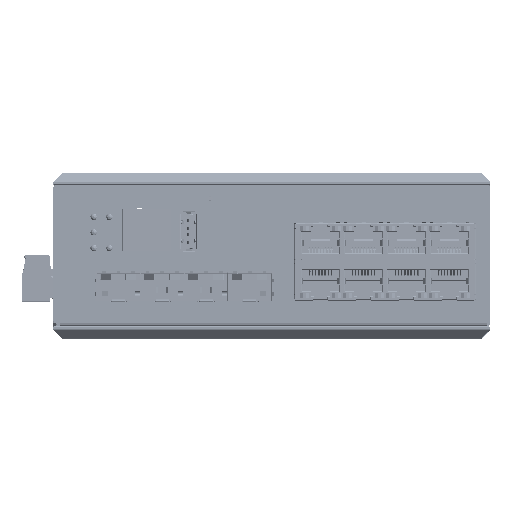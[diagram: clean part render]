
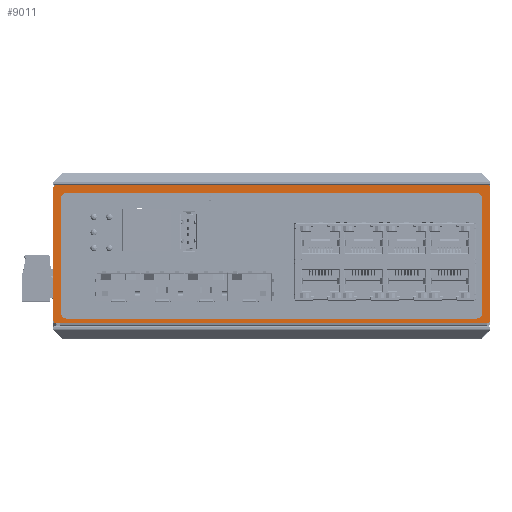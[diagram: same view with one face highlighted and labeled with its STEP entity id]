
A CAD part, top view. The second image highlights one B-rep face of the part: STEP entity #9011.
In plain terms, the highlighted planar face has unit normal (0, 0, 1).
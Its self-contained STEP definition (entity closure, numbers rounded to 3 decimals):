
#353=CARTESIAN_POINT('',(-70.5,1.1,49.));
#354=DIRECTION('',(0.,0.,-1.));
#355=DIRECTION('',(0.,-1.,0.));
#356=AXIS2_PLACEMENT_3D('',#353,#354,#355);
#358=DIRECTION('',(0.,1.,0.));
#359=VECTOR('',#358,42.9);
#360=CARTESIAN_POINT('',(-71.5,1.1,49.));
#361=LINE('',#360,#359);
#362=CARTESIAN_POINT('',(-70.5,44.,49.));
#363=DIRECTION('',(0.,0.,-1.));
#364=DIRECTION('',(-1.,0.,0.));
#365=AXIS2_PLACEMENT_3D('',#362,#363,#364);
#367=DIRECTION('',(1.,0.,0.));
#368=VECTOR('',#367,140.);
#369=CARTESIAN_POINT('',(-70.5,45.,49.));
#370=LINE('',#369,#368);
#371=CARTESIAN_POINT('',(69.5,44.,49.));
#372=DIRECTION('',(0.,0.,-1.));
#373=DIRECTION('',(0.,1.,0.));
#374=AXIS2_PLACEMENT_3D('',#371,#372,#373);
#376=DIRECTION('',(0.,-1.,0.));
#377=VECTOR('',#376,42.9);
#378=CARTESIAN_POINT('',(70.5,44.,49.));
#379=LINE('',#378,#377);
#380=CARTESIAN_POINT('',(69.5,1.1,49.));
#381=DIRECTION('',(0.,0.,-1.));
#382=DIRECTION('',(1.,0.,0.));
#383=AXIS2_PLACEMENT_3D('',#380,#381,#382);
#385=DIRECTION('',(0.,-1.,0.));
#386=VECTOR('',#385,37.);
#387=CARTESIAN_POINT('',(-69.,40.5,49.));
#388=LINE('',#387,#386);
#389=CARTESIAN_POINT('',(-67.,3.5,49.));
#390=DIRECTION('',(0.,0.,1.));
#391=DIRECTION('',(-1.,0.,0.));
#392=AXIS2_PLACEMENT_3D('',#389,#390,#391);
#394=DIRECTION('',(1.,0.,0.));
#395=VECTOR('',#394,133.);
#396=CARTESIAN_POINT('',(-67.,1.5,49.));
#397=LINE('',#396,#395);
#398=CARTESIAN_POINT('',(66.,3.5,49.));
#399=DIRECTION('',(0.,0.,1.));
#400=DIRECTION('',(0.,-1.,0.));
#401=AXIS2_PLACEMENT_3D('',#398,#399,#400);
#403=DIRECTION('',(0.,1.,0.));
#404=VECTOR('',#403,37.);
#405=CARTESIAN_POINT('',(68.,3.5,49.));
#406=LINE('',#405,#404);
#407=CARTESIAN_POINT('',(66.,40.5,49.));
#408=DIRECTION('',(0.,0.,1.));
#409=DIRECTION('',(1.,0.,0.));
#410=AXIS2_PLACEMENT_3D('',#407,#408,#409);
#412=DIRECTION('',(-1.,0.,0.));
#413=VECTOR('',#412,133.);
#414=CARTESIAN_POINT('',(66.,42.5,49.));
#415=LINE('',#414,#413);
#416=CARTESIAN_POINT('',(-67.,40.5,49.));
#417=DIRECTION('',(0.,0.,1.));
#418=DIRECTION('',(0.,1.,0.));
#419=AXIS2_PLACEMENT_3D('',#416,#417,#418);
#425=DIRECTION('',(1.,0.,0.));
#426=VECTOR('',#425,0.1);
#427=CARTESIAN_POINT('',(69.4,0.1,49.));
#428=LINE('',#427,#426);
#461=DIRECTION('',(1.,0.,0.));
#462=VECTOR('',#461,138.8);
#463=CARTESIAN_POINT('',(-69.4,0.1,49.));
#464=LINE('',#463,#462);
#6091=DIRECTION('',(1.,0.,0.));
#6092=VECTOR('',#6091,1.1);
#6093=CARTESIAN_POINT('',(-70.5,0.1,49.));
#6094=LINE('',#6093,#6092);
#6929=CARTESIAN_POINT('',(70.5,44.,49.));
#6930=CARTESIAN_POINT('',(70.5,1.1,49.));
#6931=VERTEX_POINT('',#6929);
#6932=VERTEX_POINT('',#6930);
#6933=CARTESIAN_POINT('',(69.4,0.1,49.));
#6934=CARTESIAN_POINT('',(69.5,0.1,49.));
#6935=VERTEX_POINT('',#6933);
#6936=VERTEX_POINT('',#6934);
#6937=CARTESIAN_POINT('',(-69.4,0.1,49.));
#6938=VERTEX_POINT('',#6937);
#6939=CARTESIAN_POINT('',(-70.5,0.1,49.));
#6940=VERTEX_POINT('',#6939);
#6941=CARTESIAN_POINT('',(-71.5,1.1,49.));
#6942=VERTEX_POINT('',#6941);
#6943=CARTESIAN_POINT('',(-71.5,44.,49.));
#6944=VERTEX_POINT('',#6943);
#6945=CARTESIAN_POINT('',(-70.5,45.,49.));
#6946=VERTEX_POINT('',#6945);
#6947=CARTESIAN_POINT('',(69.5,45.,49.));
#6948=VERTEX_POINT('',#6947);
#6949=CARTESIAN_POINT('',(-69.,40.5,49.));
#6950=CARTESIAN_POINT('',(-69.,3.5,49.));
#6951=VERTEX_POINT('',#6949);
#6952=VERTEX_POINT('',#6950);
#6953=CARTESIAN_POINT('',(-67.,1.5,49.));
#6954=VERTEX_POINT('',#6953);
#6955=CARTESIAN_POINT('',(66.,1.5,49.));
#6956=VERTEX_POINT('',#6955);
#6957=CARTESIAN_POINT('',(68.,3.5,49.));
#6958=VERTEX_POINT('',#6957);
#6959=CARTESIAN_POINT('',(68.,40.5,49.));
#6960=VERTEX_POINT('',#6959);
#6961=CARTESIAN_POINT('',(66.,42.5,49.));
#6962=VERTEX_POINT('',#6961);
#6963=CARTESIAN_POINT('',(-67.,42.5,49.));
#6964=VERTEX_POINT('',#6963);
#8967=CARTESIAN_POINT('',(0.,0.,49.));
#8968=DIRECTION('',(0.,0.,1.));
#8969=DIRECTION('',(0.,-1.,0.));
#8970=AXIS2_PLACEMENT_3D('',#8967,#8968,#8969);
#8971=PLANE('',#8970);
#8973=ORIENTED_EDGE('',*,*,#8972,.F.);
#8975=ORIENTED_EDGE('',*,*,#8974,.F.);
#8977=ORIENTED_EDGE('',*,*,#8976,.F.);
#8979=ORIENTED_EDGE('',*,*,#8978,.T.);
#8981=ORIENTED_EDGE('',*,*,#8980,.T.);
#8983=ORIENTED_EDGE('',*,*,#8982,.T.);
#8985=ORIENTED_EDGE('',*,*,#8984,.T.);
#8987=ORIENTED_EDGE('',*,*,#8986,.T.);
#8988=ORIENTED_EDGE('',*,*,#8957,.T.);
#8990=ORIENTED_EDGE('',*,*,#8989,.T.);
#8991=EDGE_LOOP('',(#8973,#8975,#8977,#8979,#8981,#8983,#8985,#8987,#8988,
#8990));
#8992=FACE_OUTER_BOUND('',#8991,.F.);
#8994=ORIENTED_EDGE('',*,*,#8993,.T.);
#8996=ORIENTED_EDGE('',*,*,#8995,.T.);
#8998=ORIENTED_EDGE('',*,*,#8997,.T.);
#9000=ORIENTED_EDGE('',*,*,#8999,.T.);
#9002=ORIENTED_EDGE('',*,*,#9001,.T.);
#9004=ORIENTED_EDGE('',*,*,#9003,.T.);
#9006=ORIENTED_EDGE('',*,*,#9005,.T.);
#9008=ORIENTED_EDGE('',*,*,#9007,.T.);
#9009=EDGE_LOOP('',(#8994,#8996,#8998,#9000,#9002,#9004,#9006,#9008));
#9010=FACE_BOUND('',#9009,.F.);
#357=CIRCLE('',#356,1.);
#366=CIRCLE('',#365,1.);
#375=CIRCLE('',#374,1.);
#384=CIRCLE('',#383,1.);
#393=CIRCLE('',#392,2.);
#402=CIRCLE('',#401,2.);
#411=CIRCLE('',#410,2.);
#420=CIRCLE('',#419,2.);
#8957=EDGE_CURVE('',#6931,#6932,#379,.T.);
#8972=EDGE_CURVE('',#6935,#6936,#428,.T.);
#8974=EDGE_CURVE('',#6938,#6935,#464,.T.);
#8976=EDGE_CURVE('',#6940,#6938,#6094,.T.);
#8978=EDGE_CURVE('',#6940,#6942,#357,.T.);
#8980=EDGE_CURVE('',#6942,#6944,#361,.T.);
#8982=EDGE_CURVE('',#6944,#6946,#366,.T.);
#8984=EDGE_CURVE('',#6946,#6948,#370,.T.);
#8986=EDGE_CURVE('',#6948,#6931,#375,.T.);
#8989=EDGE_CURVE('',#6932,#6936,#384,.T.);
#8993=EDGE_CURVE('',#6951,#6952,#388,.T.);
#8995=EDGE_CURVE('',#6952,#6954,#393,.T.);
#8997=EDGE_CURVE('',#6954,#6956,#397,.T.);
#8999=EDGE_CURVE('',#6956,#6958,#402,.T.);
#9001=EDGE_CURVE('',#6958,#6960,#406,.T.);
#9003=EDGE_CURVE('',#6960,#6962,#411,.T.);
#9005=EDGE_CURVE('',#6962,#6964,#415,.T.);
#9007=EDGE_CURVE('',#6964,#6951,#420,.T.);
#9011=ADVANCED_FACE('',(#8992,#9010),#8971,.T.);
